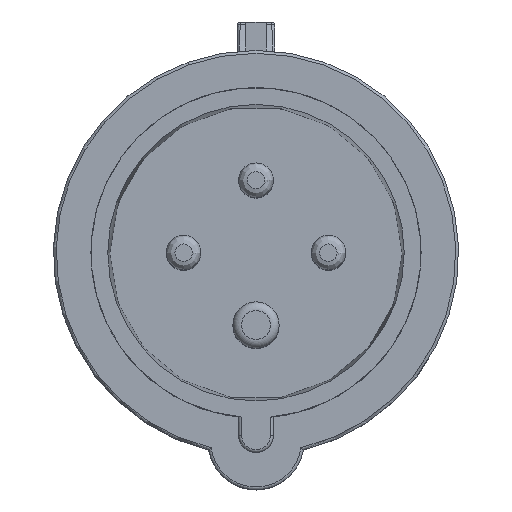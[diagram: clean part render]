
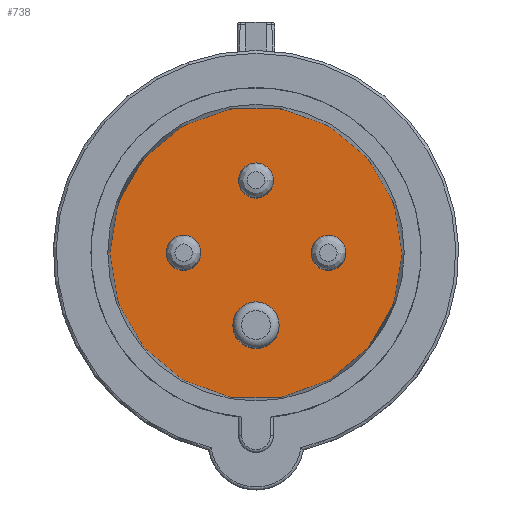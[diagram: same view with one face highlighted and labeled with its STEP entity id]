
A CAD part, top view. The second image highlights one B-rep face of the part: STEP entity #738.
In plain terms, the highlighted planar face has unit normal (0, 0, 1).
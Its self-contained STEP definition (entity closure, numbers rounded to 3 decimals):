
#738 = ADVANCED_FACE('',(#739),#759,.T.);
#739 = FACE_BOUND('',#740,.T.);
#740 = EDGE_LOOP('',(#741,#752));
#741 = ORIENTED_EDGE('',*,*,#742,.F.);
#742 = EDGE_CURVE('',#743,#745,#747,.T.);
#743 = VERTEX_POINT('',#744);
#744 = CARTESIAN_POINT('',(-25.25,0.,
    0.));
#745 = VERTEX_POINT('',#746);
#746 = CARTESIAN_POINT('',(25.25,0.,
    0.));
#747 = CIRCLE('',#748,25.25);
#748 = AXIS2_PLACEMENT_3D('',#749,#750,#751);
#749 = CARTESIAN_POINT('',(0.,0.,0.));
#750 = DIRECTION('',(0.,0.,-1.));
#751 = DIRECTION('',(-1.,0.,0.));
#752 = ORIENTED_EDGE('',*,*,#753,.F.);
#753 = EDGE_CURVE('',#745,#743,#754,.T.);
#754 = CIRCLE('',#755,25.25);
#755 = AXIS2_PLACEMENT_3D('',#756,#757,#758);
#756 = CARTESIAN_POINT('',(0.,0.,0.));
#757 = DIRECTION('',(0.,0.,-1.));
#758 = DIRECTION('',(1.,0.,0.));
#759 = PLANE('',#760);
#760 = AXIS2_PLACEMENT_3D('',#761,#762,#763);
#761 = CARTESIAN_POINT('',(0.,0.,0.));
#762 = DIRECTION('',(0.,0.,1.));
#763 = DIRECTION('',(1.,0.,-0.));
